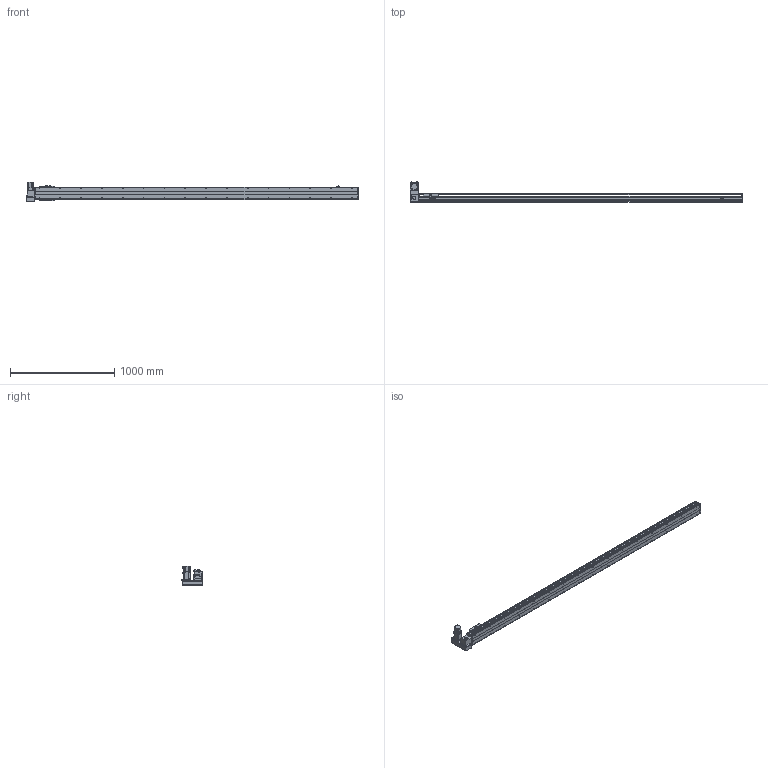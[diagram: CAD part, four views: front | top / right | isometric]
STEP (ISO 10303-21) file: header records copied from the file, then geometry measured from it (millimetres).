
FILE_DESCRIPTION(/* description */ ('STEP AP214'),/* implementation_level */ '2;1');
FILE_NAME(/* name */ 'PBS120-P40-S2800-LU-T40-C1-N(0)',/* time_stamp */ '2022-06-06T02:34:26+02:00',/* author */ ('License CC BY-ND 4.0'),/* organization */ ('CADENAS'),/* preprocessor_version */ 'ST-DEVELOPER v18.102',/* originating_system */ 'PARTsolutions',/* authorisation */ ' ');
FILE_SCHEMA (('AUTOMOTIVE_DESIGN {1 0 10303 214 3 1 1}'));
Length unit declared in the file: millimetre
Products named in the file (7): PBS120-P40-S2800-LU-T40-C1-N(0); PBS120_sensor; PBS120_plant; PBS120_sliser; T40-p1; PBS120T-LU_motors; PBS120-S2800()_body
Assembly tree (8 placements, depth 2):
  PBS120-P40-S2800-LU-T40-C1-N(0)
    PBS120_sensor  x3
    PBS120_plant
    PBS120_sliser
    T40-p1
    PBS120T-LU_motors
    PBS120-S2800()_body
Bounding box: 3186 x 198 x 189.7 mm (x, y, z)
Volume: 11820314.6 mm3; surface area: 2456349.3 mm2
Topology: 8 solids, 8 shells, 876 faces, 2236 edges, 1435 vertices
Faces by surface type: plane 565, cylinder 245, cone 64, torus 2
Full cylindrical faces by diameter (mm): 2.459 x6, 3.242 x4, 4 x2, 4.134 x4, 4.5 x10, 4.917 x36, 5.5 x11, 6 x2, 6.6 x1, 7 x2, 8.5 x4, 9 x4, 12 x1, 14 x1, 30 x2, 40 x1, 50 x2
Entity records: 22554 total; most frequent: DIRECTION 3932, CARTESIAN_POINT 3821, ORIENTED_EDGE 3598, EDGE_CURVE 1799, AXIS2_PLACEMENT_3D 1352, VERTEX_POINT 1241, LINE 1228, VECTOR 1228
